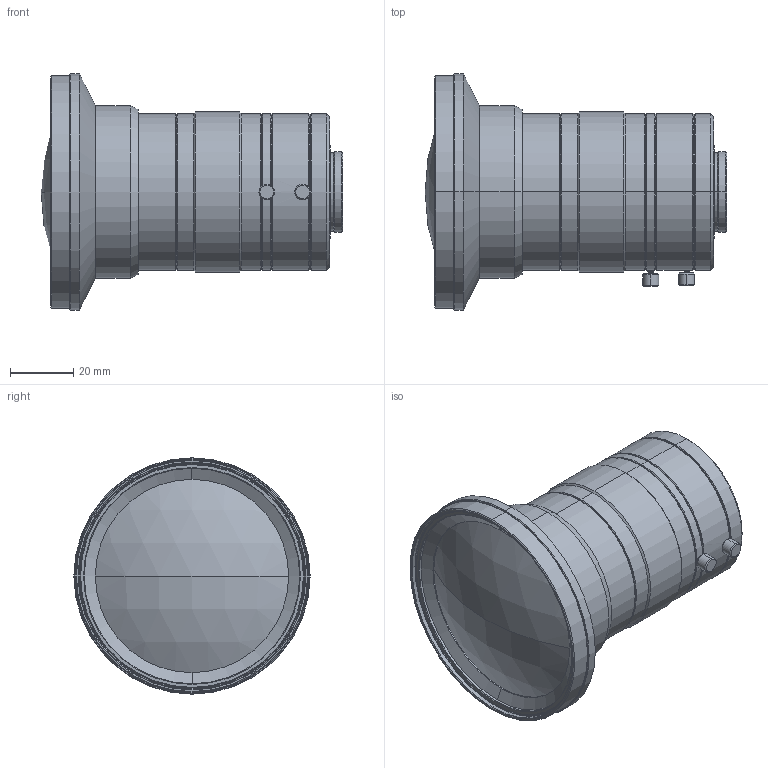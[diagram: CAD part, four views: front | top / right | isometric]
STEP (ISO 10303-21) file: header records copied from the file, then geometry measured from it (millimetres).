
FILE_DESCRIPTION (( 'STEP AP203' ), '1' );
FILE_NAME ('VS-LLD10.STEP', '2016-01-08T04:15:18', ( 'miura_vst' ), ( '' ), 'SwSTEP 2.0', 'SolidWorks 2015', '' );
FILE_SCHEMA (( 'CONFIG_CONTROL_DESIGN' ));
Length unit declared in the file: millimetre
Products named in the file (1): VS-LLD10
Bounding box: 95.15 x 74.5 x 74.5 mm (x, y, z)
Volume: 194373.5 mm3; surface area: 29540.2 mm2
Topology: 1 solids, 1 shells, 198 faces, 398 edges, 232 vertices
Faces by surface type: cone 106, cylinder 58, plane 30, sphere 4
Entity records: 5265 total; most frequent: DIRECTION 1022, CARTESIAN_POINT 893, ORIENTED_EDGE 796, AXIS2_PLACEMENT_3D 429, EDGE_CURVE 398, VERTEX_POINT 232, CIRCLE 230, EDGE_LOOP 228
